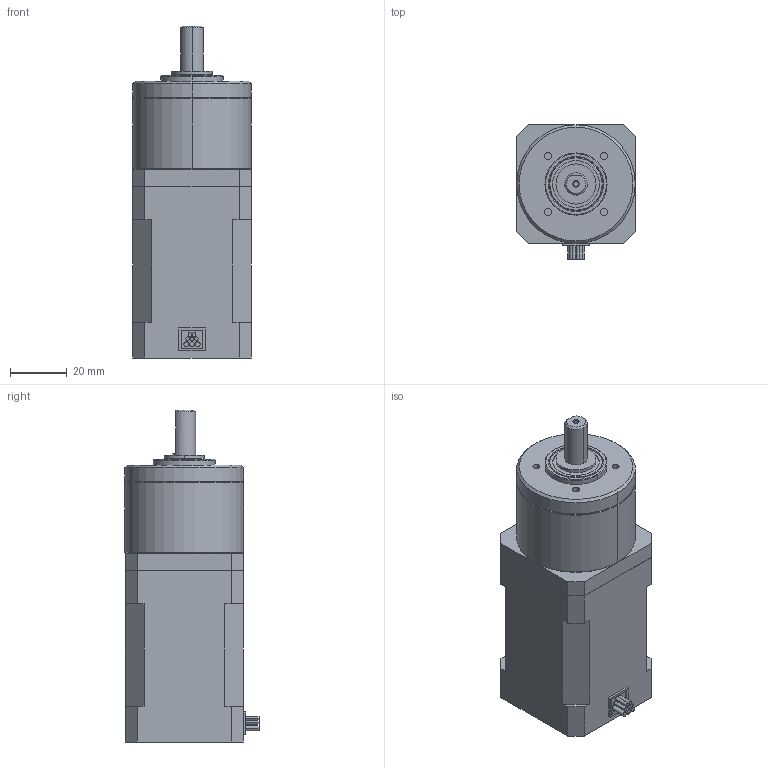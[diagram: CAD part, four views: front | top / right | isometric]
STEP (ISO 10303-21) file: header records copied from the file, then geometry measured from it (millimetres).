
FILE_DESCRIPTION (( 'STEP AP203' ), '1' );
FILE_NAME ('BLDC_Brushless_motor_42DMW61_NEMA17_4.9to1-GearRatio_Phidgets_DCM4101_0.STEP', '2022-06-28T21:59:21', ( '' ), ( '' ), 'SwSTEP 2.0', 'SolidWorks 2020', '' );
FILE_SCHEMA (( 'CONFIG_CONTROL_DESIGN' ));
Length unit declared in the file: millimetre
Products named in the file (1): BLDC_Brushless_motor_42DMW61_NEMA17_4.9to1-GearRatio_Phidgets_DCM4101_0
Bounding box: 41.95 x 47.42 x 117.5 mm (x, y, z)
Volume: 157189.7 mm3; surface area: 20437.5 mm2
Topology: 1 solids, 6 shells, 242 faces, 555 edges, 362 vertices
Faces by surface type: plane 147, cylinder 70, cone 17, torus 8
Entity records: 6895 total; most frequent: DIRECTION 1214, CARTESIAN_POINT 1166, ORIENTED_EDGE 1110, EDGE_CURVE 555, AXIS2_PLACEMENT_3D 418, LINE 378, VECTOR 378, VERTEX_POINT 362
